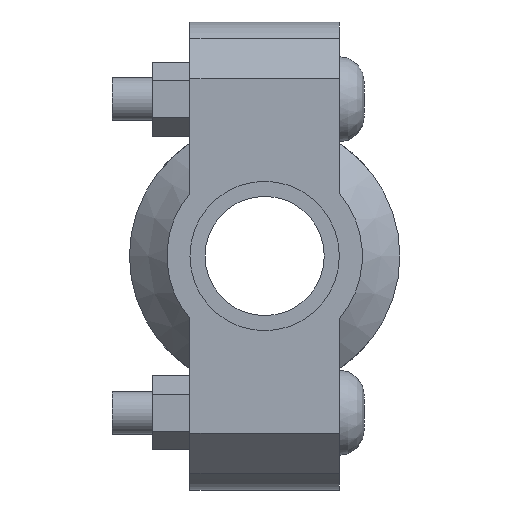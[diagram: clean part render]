
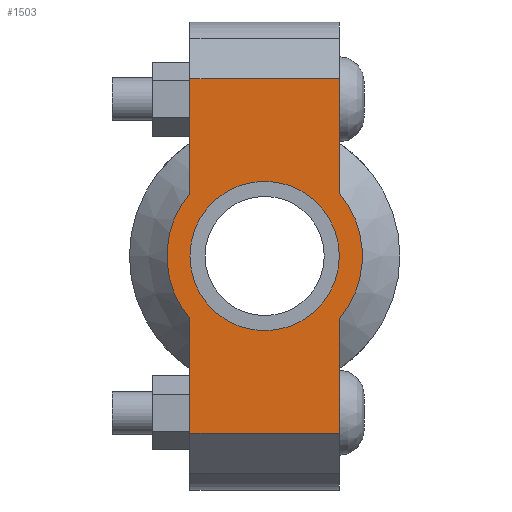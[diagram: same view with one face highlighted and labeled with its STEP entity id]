
A CAD part, left-side view. The second image highlights one B-rep face of the part: STEP entity #1503.
In plain terms, the highlighted planar face has unit normal (-1, 0, 0) as drawn and (0, 0, 1) by its records, which use the part's own axes.
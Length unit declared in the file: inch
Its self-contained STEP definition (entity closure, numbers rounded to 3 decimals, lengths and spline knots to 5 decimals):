
#114=LINE('',#2581,#209);
#129=LINE('',#2640,#224);
#137=LINE('',#2670,#232);
#139=LINE('',#2673,#234);
#140=LINE('',#2678,#235);
#141=LINE('',#2679,#236);
#209=VECTOR('',#2091,0.3937);
#224=VECTOR('',#2126,0.3937);
#232=VECTOR('',#2146,0.3937);
#234=VECTOR('',#2150,0.3937);
#235=VECTOR('',#2155,0.3937);
#236=VECTOR('',#2156,0.3937);
#296=FACE_BOUND('',#455,.T.);
#356=FACE_OUTER_BOUND('',#454,.T.);
#454=EDGE_LOOP('',(#1198,#1199,#1200,#1201,#1202,#1203,#1204,#1205));
#455=EDGE_LOOP('',(#1206));
#560=CIRCLE('',#1766,0.86);
#561=CIRCLE('',#1767,0.86);
#562=CIRCLE('',#1768,0.6575);
#669=VERTEX_POINT('',#2578);
#670=VERTEX_POINT('',#2580);
#691=VERTEX_POINT('',#2635);
#692=VERTEX_POINT('',#2639);
#701=VERTEX_POINT('',#2665);
#702=VERTEX_POINT('',#2669);
#703=VERTEX_POINT('',#2675);
#704=VERTEX_POINT('',#2677);
#705=VERTEX_POINT('',#2681);
#839=EDGE_CURVE('',#670,#669,#114,.T.);
#864=EDGE_CURVE('',#692,#691,#129,.T.);
#877=EDGE_CURVE('',#702,#701,#137,.T.);
#879=EDGE_CURVE('',#702,#669,#139,.T.);
#880=EDGE_CURVE('',#701,#703,#560,.T.);
#881=EDGE_CURVE('',#703,#704,#140,.T.);
#882=EDGE_CURVE('',#692,#704,#141,.T.);
#883=EDGE_CURVE('',#691,#670,#561,.T.);
#884=EDGE_CURVE('',#705,#705,#562,.T.);
#1198=ORIENTED_EDGE('',*,*,#879,.F.);
#1199=ORIENTED_EDGE('',*,*,#877,.T.);
#1200=ORIENTED_EDGE('',*,*,#880,.T.);
#1201=ORIENTED_EDGE('',*,*,#881,.T.);
#1202=ORIENTED_EDGE('',*,*,#882,.F.);
#1203=ORIENTED_EDGE('',*,*,#864,.T.);
#1204=ORIENTED_EDGE('',*,*,#883,.T.);
#1205=ORIENTED_EDGE('',*,*,#839,.T.);
#1206=ORIENTED_EDGE('',*,*,#884,.T.);
#1355=PLANE('',#1765);
#1503=ADVANCED_FACE('',(#356,#296),#1355,.T.);
#1765=AXIS2_PLACEMENT_3D('',#2674,#2151,#2152);
#1766=AXIS2_PLACEMENT_3D('',#2676,#2153,#2154);
#1767=AXIS2_PLACEMENT_3D('',#2680,#2157,#2158);
#1768=AXIS2_PLACEMENT_3D('',#2682,#2159,#2160);
#2091=DIRECTION('',(1.,0.,0.));
#2126=DIRECTION('',(1.,0.,0.));
#2146=DIRECTION('',(-1.,0.,0.));
#2150=DIRECTION('',(0.,-1.,0.));
#2151=DIRECTION('center_axis',(0.,0.,1.));
#2152=DIRECTION('ref_axis',(-1.,0.,0.));
#2153=DIRECTION('center_axis',(0.,0.,1.));
#2154=DIRECTION('ref_axis',(1.,0.,0.));
#2155=DIRECTION('',(-1.,0.,0.));
#2156=DIRECTION('',(0.,1.,0.));
#2157=DIRECTION('center_axis',(0.,0.,1.));
#2158=DIRECTION('ref_axis',(1.,0.,0.));
#2159=DIRECTION('center_axis',(0.,0.,-1.));
#2160=DIRECTION('ref_axis',(1.,0.,0.));
#2578=CARTESIAN_POINT('',(1.56,-0.6575,0.875));
#2580=CARTESIAN_POINT('',(0.55434,-0.6575,0.875));
#2581=CARTESIAN_POINT('',(-2.06,-0.6575,0.875));
#2635=CARTESIAN_POINT('',(-0.55434,-0.6575,0.875));
#2639=CARTESIAN_POINT('',(-1.56,-0.6575,0.875));
#2640=CARTESIAN_POINT('',(-2.06,-0.6575,0.875));
#2665=CARTESIAN_POINT('',(0.55434,0.6575,0.875));
#2669=CARTESIAN_POINT('',(1.56,0.6575,0.875));
#2670=CARTESIAN_POINT('',(2.06,0.6575,0.875));
#2673=CARTESIAN_POINT('',(1.56,-0.32875,0.875));
#2674=CARTESIAN_POINT('Origin',(0.,0.,
0.875));
#2675=CARTESIAN_POINT('',(-0.55434,0.6575,0.875));
#2676=CARTESIAN_POINT('Origin',(0.,0.,0.875));
#2677=CARTESIAN_POINT('',(-1.56,0.6575,0.875));
#2678=CARTESIAN_POINT('',(2.06,0.6575,0.875));
#2679=CARTESIAN_POINT('',(-1.56,0.32875,0.875));
#2680=CARTESIAN_POINT('Origin',(0.,0.,0.875));
#2681=CARTESIAN_POINT('',(-0.6575,0.,0.875));
#2682=CARTESIAN_POINT('Origin',(0.,0.,0.875));
